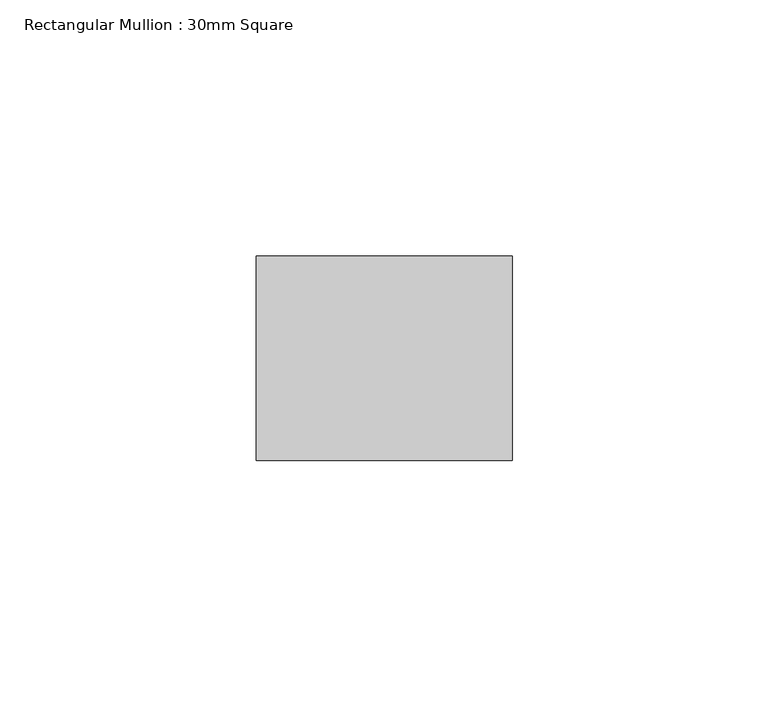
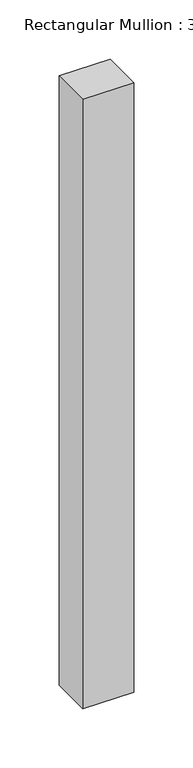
"""IFC4 building model written with IfcOpenShell, lengths in millimetres: member geometry, Rectangular Mullion : 30mm Square."""

from ifc_helpers import new_model, si_unit, frame, origin, place, context, project, spatial, polyline, outline, extrude, source, transform, mapped, element, save


def rectangular_mullion_30mm_square_5320ad48(model_context):
    return source(origin(), model_context, "Body", "SweptSolid", [
        extrude(outline(polyline([(25.0, 20.0), (25.0, -20.0), (-25.0, -20.0), (-25.0, 20.0), (25.0, 20.0)])), frame((0.0, 0.0, -630.0), z_axis=(0.0, 0.0, 1.0), x_axis=(1.0, 0.0, 0.0)), (0.0, 0.0, 1.0), 630.0),
    ])


if __name__ == "__main__":
    model = new_model("IFC4")
    model_context = context("Model", 3, world=origin())
    ifc_project = project(units=[si_unit("LENGTHUNIT", "METRE", prefix="MILLI")], contexts=[model_context])
    site = spatial("IfcSite", under=ifc_project)
    building = spatial("IfcBuilding", under=site)
    placement = place(None, origin())
    rectangular_mullion_30mm_square_shape = rectangular_mullion_30mm_square_5320ad48(model_context)
    element("IfcMember", 1, ObjectType="Rectangular Mullion : 30mm Square", at=placement, inside=building, context=model_context, shape_type="MappedRepresentation", body=[
        mapped(rectangular_mullion_30mm_square_shape, transform((0.0, 0.0, 0.0), x_axis=(1.0, 0.0, 0.0), y_axis=(0.0, 1.0, 0.0), z_axis=(0.0, 0.0, 1.0))),
    ])
    save(model, "model.ifc")
